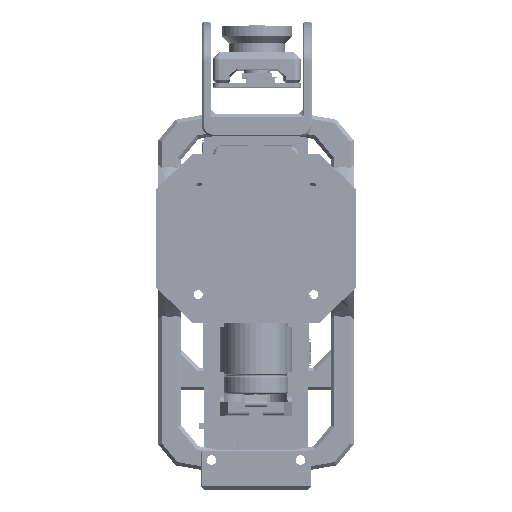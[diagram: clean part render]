
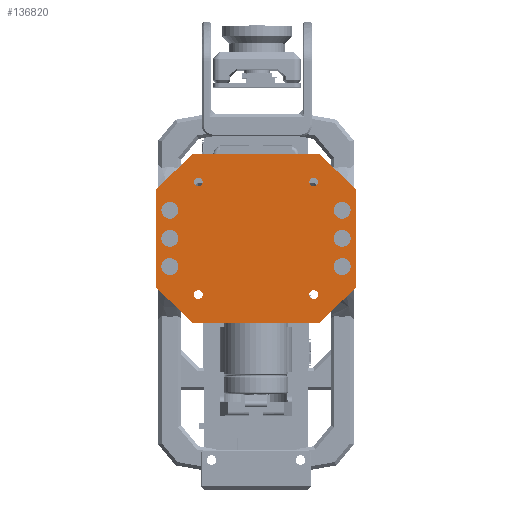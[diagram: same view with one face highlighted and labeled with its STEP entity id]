
A CAD part, front view. The second image highlights one B-rep face of the part: STEP entity #136820.
In plain terms, the highlighted planar face has unit normal (0, -1, 0).
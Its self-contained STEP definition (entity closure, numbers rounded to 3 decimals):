
#3737=FACE_BOUND('',#25440,.T.);
#3738=FACE_BOUND('',#25441,.T.);
#3739=FACE_BOUND('',#25442,.T.);
#3740=FACE_BOUND('',#25443,.T.);
#3741=FACE_BOUND('',#25444,.T.);
#3742=FACE_BOUND('',#25445,.T.);
#3743=FACE_BOUND('',#25446,.T.);
#3744=FACE_BOUND('',#25447,.T.);
#3745=FACE_BOUND('',#25448,.T.);
#3746=FACE_BOUND('',#25449,.T.);
#8381=PLANE('',#147490);
#17815=FACE_OUTER_BOUND('',#25439,.T.);
#25439=EDGE_LOOP('',(#121922,#121923,#121924,#121925,#121926,#121927,#121928,
#121929,#121930,#121931));
#25440=EDGE_LOOP('',(#121932));
#25441=EDGE_LOOP('',(#121933));
#25442=EDGE_LOOP('',(#121934));
#25443=EDGE_LOOP('',(#121935));
#25444=EDGE_LOOP('',(#121936));
#25445=EDGE_LOOP('',(#121937));
#25446=EDGE_LOOP('',(#121938));
#25447=EDGE_LOOP('',(#121939));
#25448=EDGE_LOOP('',(#121940));
#25449=EDGE_LOOP('',(#121941));
#38959=LINE('',#222316,#53246);
#38971=LINE('',#222361,#53258);
#38974=LINE('',#222365,#53261);
#38975=LINE('',#222368,#53262);
#38977=LINE('',#222372,#53264);
#38979=LINE('',#222376,#53266);
#38981=LINE('',#222380,#53268);
#38984=LINE('',#222385,#53271);
#38985=LINE('',#222388,#53272);
#38987=LINE('',#222391,#53274);
#53246=VECTOR('',#179231,10.);
#53258=VECTOR('',#179285,10.);
#53261=VECTOR('',#179290,10.);
#53262=VECTOR('',#179293,10.);
#53264=VECTOR('',#179297,10.);
#53266=VECTOR('',#179301,10.);
#53268=VECTOR('',#179305,10.);
#53271=VECTOR('',#179310,10.);
#53272=VECTOR('',#179313,10.);
#53274=VECTOR('',#179317,10.);
#58120=CIRCLE('',#147462,2.4);
#58121=CIRCLE('',#147464,1.25);
#58122=CIRCLE('',#147466,2.4);
#58123=CIRCLE('',#147468,2.4);
#58124=CIRCLE('',#147470,2.4);
#58125=CIRCLE('',#147472,1.25);
#58126=CIRCLE('',#147474,1.25);
#58127=CIRCLE('',#147476,2.4);
#58128=CIRCLE('',#147478,2.4);
#58129=CIRCLE('',#147480,1.25);
#68242=VERTEX_POINT('',#222313);
#68243=VERTEX_POINT('',#222315);
#68244=VERTEX_POINT('',#222319);
#68245=VERTEX_POINT('',#222323);
#68246=VERTEX_POINT('',#222327);
#68247=VERTEX_POINT('',#222331);
#68248=VERTEX_POINT('',#222335);
#68249=VERTEX_POINT('',#222339);
#68250=VERTEX_POINT('',#222343);
#68251=VERTEX_POINT('',#222347);
#68252=VERTEX_POINT('',#222351);
#68253=VERTEX_POINT('',#222355);
#68254=VERTEX_POINT('',#222359);
#68255=VERTEX_POINT('',#222360);
#68256=VERTEX_POINT('',#222367);
#68257=VERTEX_POINT('',#222371);
#68258=VERTEX_POINT('',#222375);
#68259=VERTEX_POINT('',#222379);
#68260=VERTEX_POINT('',#222383);
#68261=VERTEX_POINT('',#222387);
#86746=EDGE_CURVE('',#68242,#68243,#38959,.T.);
#86749=EDGE_CURVE('',#68244,#68244,#58120,.T.);
#86751=EDGE_CURVE('',#68245,#68245,#58121,.T.);
#86753=EDGE_CURVE('',#68246,#68246,#58122,.T.);
#86755=EDGE_CURVE('',#68247,#68247,#58123,.T.);
#86757=EDGE_CURVE('',#68248,#68248,#58124,.T.);
#86759=EDGE_CURVE('',#68249,#68249,#58125,.T.);
#86761=EDGE_CURVE('',#68250,#68250,#58126,.T.);
#86763=EDGE_CURVE('',#68251,#68251,#58127,.T.);
#86765=EDGE_CURVE('',#68252,#68252,#58128,.T.);
#86767=EDGE_CURVE('',#68253,#68253,#58129,.T.);
#86768=EDGE_CURVE('',#68254,#68255,#38971,.T.);
#86771=EDGE_CURVE('',#68255,#68243,#38974,.T.);
#86772=EDGE_CURVE('',#68256,#68242,#38975,.T.);
#86774=EDGE_CURVE('',#68257,#68256,#38977,.T.);
#86776=EDGE_CURVE('',#68257,#68258,#38979,.T.);
#86778=EDGE_CURVE('',#68258,#68259,#38981,.T.);
#86781=EDGE_CURVE('',#68260,#68259,#38984,.T.);
#86782=EDGE_CURVE('',#68261,#68260,#38985,.T.);
#86784=EDGE_CURVE('',#68254,#68261,#38987,.T.);
#121922=ORIENTED_EDGE('',*,*,#86784,.F.);
#121923=ORIENTED_EDGE('',*,*,#86768,.T.);
#121924=ORIENTED_EDGE('',*,*,#86771,.T.);
#121925=ORIENTED_EDGE('',*,*,#86746,.F.);
#121926=ORIENTED_EDGE('',*,*,#86772,.F.);
#121927=ORIENTED_EDGE('',*,*,#86774,.F.);
#121928=ORIENTED_EDGE('',*,*,#86776,.T.);
#121929=ORIENTED_EDGE('',*,*,#86778,.T.);
#121930=ORIENTED_EDGE('',*,*,#86781,.F.);
#121931=ORIENTED_EDGE('',*,*,#86782,.F.);
#121932=ORIENTED_EDGE('',*,*,#86767,.F.);
#121933=ORIENTED_EDGE('',*,*,#86765,.F.);
#121934=ORIENTED_EDGE('',*,*,#86763,.F.);
#121935=ORIENTED_EDGE('',*,*,#86761,.F.);
#121936=ORIENTED_EDGE('',*,*,#86759,.F.);
#121937=ORIENTED_EDGE('',*,*,#86757,.F.);
#121938=ORIENTED_EDGE('',*,*,#86755,.F.);
#121939=ORIENTED_EDGE('',*,*,#86753,.F.);
#121940=ORIENTED_EDGE('',*,*,#86751,.F.);
#121941=ORIENTED_EDGE('',*,*,#86749,.F.);
#136820=ADVANCED_FACE('',(#17815,#3737,#3738,#3739,#3740,#3741,#3742,#3743,
#3744,#3745,#3746),#8381,.F.);
#147462=AXIS2_PLACEMENT_3D('',#222321,#179236,#179237);
#147464=AXIS2_PLACEMENT_3D('',#222325,#179241,#179242);
#147466=AXIS2_PLACEMENT_3D('',#222329,#179246,#179247);
#147468=AXIS2_PLACEMENT_3D('',#222333,#179251,#179252);
#147470=AXIS2_PLACEMENT_3D('',#222337,#179256,#179257);
#147472=AXIS2_PLACEMENT_3D('',#222341,#179261,#179262);
#147474=AXIS2_PLACEMENT_3D('',#222345,#179266,#179267);
#147476=AXIS2_PLACEMENT_3D('',#222349,#179271,#179272);
#147478=AXIS2_PLACEMENT_3D('',#222353,#179276,#179277);
#147480=AXIS2_PLACEMENT_3D('',#222357,#179281,#179282);
#147490=AXIS2_PLACEMENT_3D('',#222392,#179318,#179319);
#179231=DIRECTION('',(0.,0.,1.));
#179236=DIRECTION('center_axis',(0.,-1.,0.));
#179237=DIRECTION('ref_axis',(1.,0.,0.));
#179241=DIRECTION('center_axis',(0.,-1.,0.));
#179242=DIRECTION('ref_axis',(1.,0.,0.));
#179246=DIRECTION('center_axis',(0.,-1.,0.));
#179247=DIRECTION('ref_axis',(1.,0.,0.));
#179251=DIRECTION('center_axis',(0.,-1.,0.));
#179252=DIRECTION('ref_axis',(1.,0.,0.));
#179256=DIRECTION('center_axis',(0.,-1.,0.));
#179257=DIRECTION('ref_axis',(0.,0.,1.));
#179261=DIRECTION('center_axis',(0.,-1.,0.));
#179262=DIRECTION('ref_axis',(1.,0.,0.));
#179266=DIRECTION('center_axis',(0.,-1.,0.));
#179267=DIRECTION('ref_axis',(1.,0.,0.));
#179271=DIRECTION('center_axis',(0.,-1.,0.));
#179272=DIRECTION('ref_axis',(1.,0.,0.));
#179276=DIRECTION('center_axis',(0.,-1.,0.));
#179277=DIRECTION('ref_axis',(0.,0.,-1.));
#179281=DIRECTION('center_axis',(0.,-1.,0.));
#179282=DIRECTION('ref_axis',(1.,0.,0.));
#179285=DIRECTION('',(-1.,0.,0.));
#179290=DIRECTION('',(-0.693,0.,-0.721));
#179293=DIRECTION('',(-0.693,0.,0.721));
#179297=DIRECTION('',(-1.,0.,0.));
#179301=DIRECTION('',(1.,0.,0.));
#179305=DIRECTION('',(0.693,0.,0.721));
#179310=DIRECTION('',(0.,0.,-1.));
#179313=DIRECTION('',(0.693,0.,-0.721));
#179317=DIRECTION('',(1.,0.,0.));
#179318=DIRECTION('center_axis',(0.,1.,0.));
#179319=DIRECTION('ref_axis',(1.,0.,0.));
#222313=CARTESIAN_POINT('',(-24.,0.,-18.));
#222315=CARTESIAN_POINT('',(-24.,0.,18.));
#222316=CARTESIAN_POINT('',(-24.,0.,-18.));
#222319=CARTESIAN_POINT('',(-10.4,0.,24.5));
#222321=CARTESIAN_POINT('Origin',(-8.,0.,24.5));
#222323=CARTESIAN_POINT('',(-17.25,0.,-16.4));
#222325=CARTESIAN_POINT('Origin',(-16.,0.,-16.4));
#222327=CARTESIAN_POINT('',(5.6,0.,-24.5));
#222329=CARTESIAN_POINT('Origin',(8.,0.,-24.5));
#222331=CARTESIAN_POINT('',(5.6,0.,24.5));
#222333=CARTESIAN_POINT('Origin',(8.,0.,24.5));
#222335=CARTESIAN_POINT('',(0.,0.,-26.9));
#222337=CARTESIAN_POINT('Origin',(0.,0.,-24.5));
#222339=CARTESIAN_POINT('',(14.75,0.,-16.4));
#222341=CARTESIAN_POINT('Origin',(16.,0.,-16.4));
#222343=CARTESIAN_POINT('',(-17.25,0.,16.4));
#222345=CARTESIAN_POINT('Origin',(-16.,0.,16.4));
#222347=CARTESIAN_POINT('',(-10.4,0.,-24.5));
#222349=CARTESIAN_POINT('Origin',(-8.,0.,-24.5));
#222351=CARTESIAN_POINT('',(0.,0.,26.9));
#222353=CARTESIAN_POINT('Origin',(0.,0.,24.5));
#222355=CARTESIAN_POINT('',(14.75,0.,16.4));
#222357=CARTESIAN_POINT('Origin',(16.,0.,16.4));
#222359=CARTESIAN_POINT('',(0.,0.,28.4));
#222360=CARTESIAN_POINT('',(-14.,0.,28.4));
#222361=CARTESIAN_POINT('',(0.,0.,28.4));
#222365=CARTESIAN_POINT('',(-14.,0.,28.4));
#222367=CARTESIAN_POINT('',(-14.,0.,-28.4));
#222368=CARTESIAN_POINT('',(-14.,0.,-28.4));
#222371=CARTESIAN_POINT('',(0.,0.,-28.4));
#222372=CARTESIAN_POINT('',(0.,0.,-28.4));
#222375=CARTESIAN_POINT('',(14.,0.,-28.4));
#222376=CARTESIAN_POINT('',(0.,0.,-28.4));
#222379=CARTESIAN_POINT('',(24.,0.,-18.));
#222380=CARTESIAN_POINT('',(14.,0.,-28.4));
#222383=CARTESIAN_POINT('',(24.,0.,18.));
#222385=CARTESIAN_POINT('',(24.,0.,18.));
#222387=CARTESIAN_POINT('',(14.,0.,28.4));
#222388=CARTESIAN_POINT('',(14.,0.,28.4));
#222391=CARTESIAN_POINT('',(0.,0.,28.4));
#222392=CARTESIAN_POINT('Origin',(0.,0.,0.));
